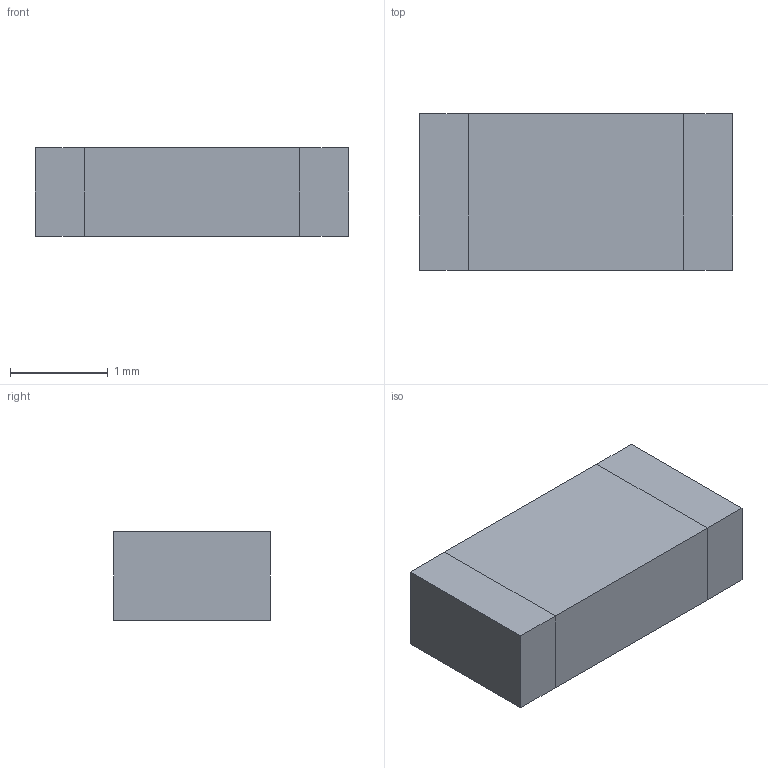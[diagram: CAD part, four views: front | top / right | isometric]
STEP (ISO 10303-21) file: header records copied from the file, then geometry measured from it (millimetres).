
FILE_DESCRIPTION(('shape.step'),'2;1');
FILE_NAME('shape.step','2026-10-04',('tscircuit'),('tscircuit'),'generator','','');
FILE_SCHEMA(('AUTOMOTIVE_DESIGN { 1 0 10303 214 1 1 1 1 }'));
Length unit declared in the file: millimetre
Products named in the file (1): shape
Bounding box: 3.2 x 1.6 x 0.9 mm (x, y, z)
Volume: 4.6 mm3; surface area: 24.6 mm2
Topology: 3 solids, 3 shells, 18 faces, 36 edges, 24 vertices
Faces by surface type: plane 18
Entity records: 454 total; most frequent: DIRECTION 74, ORIENTED_EDGE 72, CARTESIAN_POINT 43, VECTOR 36, LINE 36, EDGE_CURVE 36, VERTEX_POINT 24, AXIS2_PLACEMENT_3D 19
